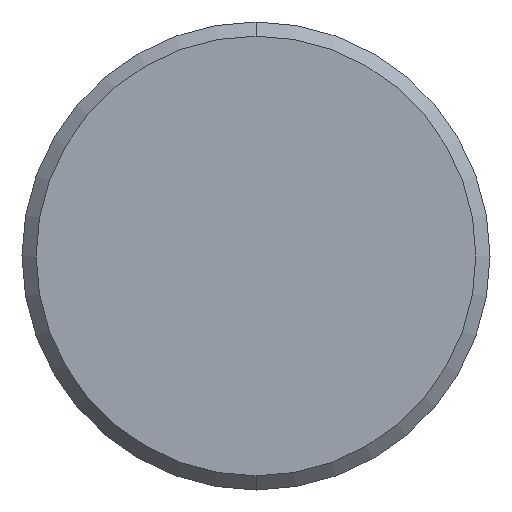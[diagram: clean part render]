
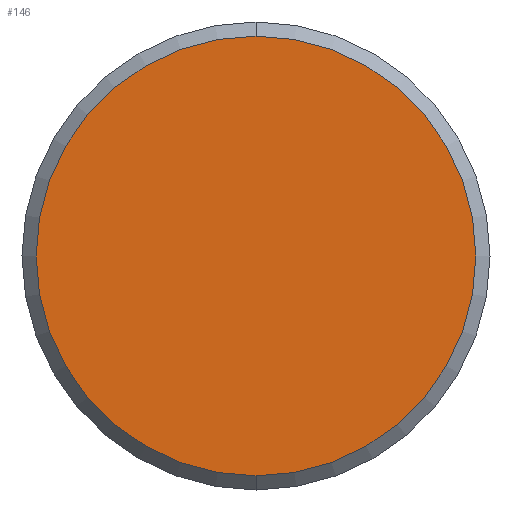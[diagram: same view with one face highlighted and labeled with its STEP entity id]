
A CAD part, left-side view. The second image highlights one B-rep face of the part: STEP entity #146.
In plain terms, the highlighted planar face has unit normal (-1, 0, 0).
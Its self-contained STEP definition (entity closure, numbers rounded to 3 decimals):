
#15 = AXIS2_PLACEMENT_3D ( 'NONE', #133, #519, #541 ) ;
#41 = DIRECTION ( 'NONE',  ( 0., 0., -1. ) ) ;
#75 = ORIENTED_EDGE ( 'NONE', *, *, #182, .T. ) ;
#95 = DIRECTION ( 'NONE',  ( -1., 0., 0. ) ) ;
#99 = CARTESIAN_POINT ( 'NONE',  ( 0., 0., 0. ) ) ;
#133 = CARTESIAN_POINT ( 'NONE',  ( 0., 0., 0. ) ) ;
#146 = ADVANCED_FACE ( 'NONE', ( #408 ), #511, .F. ) ;
#147 = ORIENTED_EDGE ( 'NONE', *, *, #430, .T. ) ;
#182 = EDGE_CURVE ( 'NONE', #231, #332, #203, .T. ) ;
#203 = CIRCLE ( 'NONE', #575, 31. ) ;
#223 = EDGE_LOOP ( 'NONE', ( #75, #147 ) ) ;
#231 = VERTEX_POINT ( 'NONE', #523 ) ;
#284 = CIRCLE ( 'NONE', #568, 31. ) ;
#295 = CARTESIAN_POINT ( 'NONE',  ( 0., 0., 31. ) ) ;
#304 = DIRECTION ( 'NONE',  ( -1., 0., 0. ) ) ;
#332 = VERTEX_POINT ( 'NONE', #295 ) ;
#408 = FACE_OUTER_BOUND ( 'NONE', #223, .T. ) ;
#430 = EDGE_CURVE ( 'NONE', #332, #231, #284, .T. ) ;
#471 = DIRECTION ( 'NONE',  ( 0., 0., -1. ) ) ;
#511 = PLANE ( 'NONE',  #15 ) ;
#519 = DIRECTION ( 'NONE',  ( 1., 0., 0. ) ) ;
#523 = CARTESIAN_POINT ( 'NONE',  ( 0., 0., -31. ) ) ;
#541 = DIRECTION ( 'NONE',  ( 0., 0., -1. ) ) ;
#568 = AXIS2_PLACEMENT_3D ( 'NONE', #588, #304, #41 ) ;
#575 = AXIS2_PLACEMENT_3D ( 'NONE', #99, #95, #471 ) ;
#588 = CARTESIAN_POINT ( 'NONE',  ( 0., 0., 0. ) ) ;
